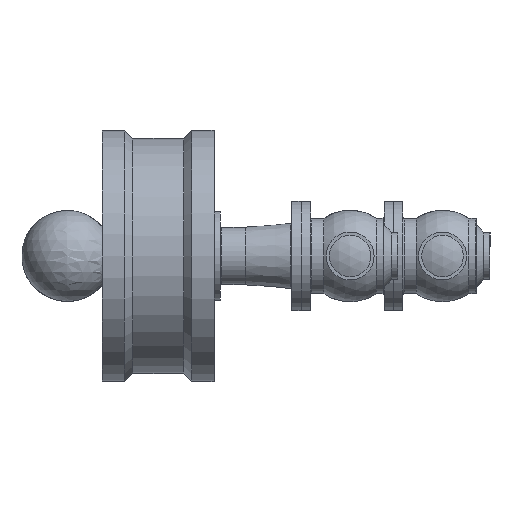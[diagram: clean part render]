
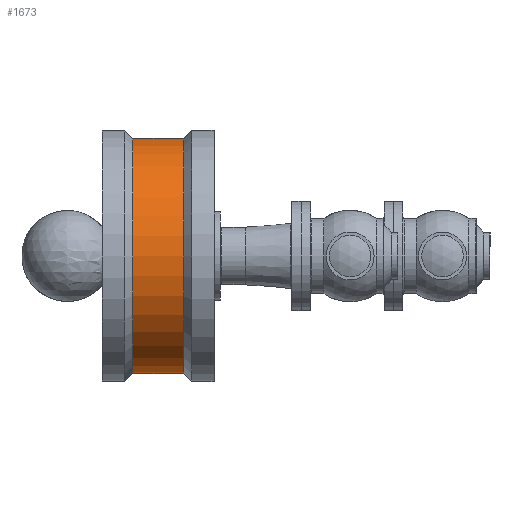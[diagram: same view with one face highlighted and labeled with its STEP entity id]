
A CAD part, left-side view. The second image highlights one B-rep face of the part: STEP entity #1673.
In plain terms, the highlighted cylindrical face has radius 187 mm (diameter 374 mm), a full revolution.
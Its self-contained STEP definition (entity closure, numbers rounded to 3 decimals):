
#246=FACE_OUTER_BOUND('',#345,.T.);
#345=EDGE_LOOP('',(#1208,#1209,#1210,#1211,#1212,#1213));
#459=LINE('',#3011,#502);
#502=VECTOR('',#2331,187.);
#562=CIRCLE('',#1949,187.);
#563=CIRCLE('',#1950,187.);
#566=CIRCLE('',#1954,187.);
#567=CIRCLE('',#1955,187.);
#754=VERTEX_POINT('',#2997);
#755=VERTEX_POINT('',#2998);
#758=VERTEX_POINT('',#3007);
#759=VERTEX_POINT('',#3008);
#939=EDGE_CURVE('',#754,#755,#562,.T.);
#940=EDGE_CURVE('',#755,#754,#563,.T.);
#944=EDGE_CURVE('',#758,#759,#566,.T.);
#945=EDGE_CURVE('',#759,#758,#567,.T.);
#946=EDGE_CURVE('',#759,#755,#459,.T.);
#1208=ORIENTED_EDGE('',*,*,#944,.F.);
#1209=ORIENTED_EDGE('',*,*,#945,.F.);
#1210=ORIENTED_EDGE('',*,*,#946,.T.);
#1211=ORIENTED_EDGE('',*,*,#940,.T.);
#1212=ORIENTED_EDGE('',*,*,#939,.T.);
#1213=ORIENTED_EDGE('',*,*,#946,.F.);
#1627=CYLINDRICAL_SURFACE('',#1953,187.);
#1673=ADVANCED_FACE('',(#246),#1627,.T.);
#1949=AXIS2_PLACEMENT_3D('',#2999,#2316,#2317);
#1950=AXIS2_PLACEMENT_3D('',#3000,#2318,#2319);
#1953=AXIS2_PLACEMENT_3D('',#3006,#2325,#2326);
#1954=AXIS2_PLACEMENT_3D('',#3009,#2327,#2328);
#1955=AXIS2_PLACEMENT_3D('',#3010,#2329,#2330);
#2316=DIRECTION('center_axis',(0.,0.,1.));
#2317=DIRECTION('ref_axis',(1.,0.,0.));
#2318=DIRECTION('center_axis',(0.,0.,1.));
#2319=DIRECTION('ref_axis',(1.,0.,0.));
#2325=DIRECTION('center_axis',(0.,0.,1.));
#2326=DIRECTION('ref_axis',(1.,0.,0.));
#2327=DIRECTION('center_axis',(0.,0.,1.));
#2328=DIRECTION('ref_axis',(1.,0.,0.));
#2329=DIRECTION('center_axis',(0.,0.,1.));
#2330=DIRECTION('ref_axis',(1.,0.,0.));
#2331=DIRECTION('',(0.,0.,-1.));
#2997=CARTESIAN_POINT('',(187.,0.,51.5));
#2998=CARTESIAN_POINT('',(-187.,0.,51.5));
#2999=CARTESIAN_POINT('Origin',(0.,0.,51.5));
#3000=CARTESIAN_POINT('Origin',(0.,0.,51.5));
#3006=CARTESIAN_POINT('Origin',(0.,0.,92.));
#3007=CARTESIAN_POINT('',(187.,0.,132.5));
#3008=CARTESIAN_POINT('',(-187.,0.,132.5));
#3009=CARTESIAN_POINT('Origin',(0.,0.,132.5));
#3010=CARTESIAN_POINT('Origin',(0.,0.,132.5));
#3011=CARTESIAN_POINT('',(-187.,0.,92.));
